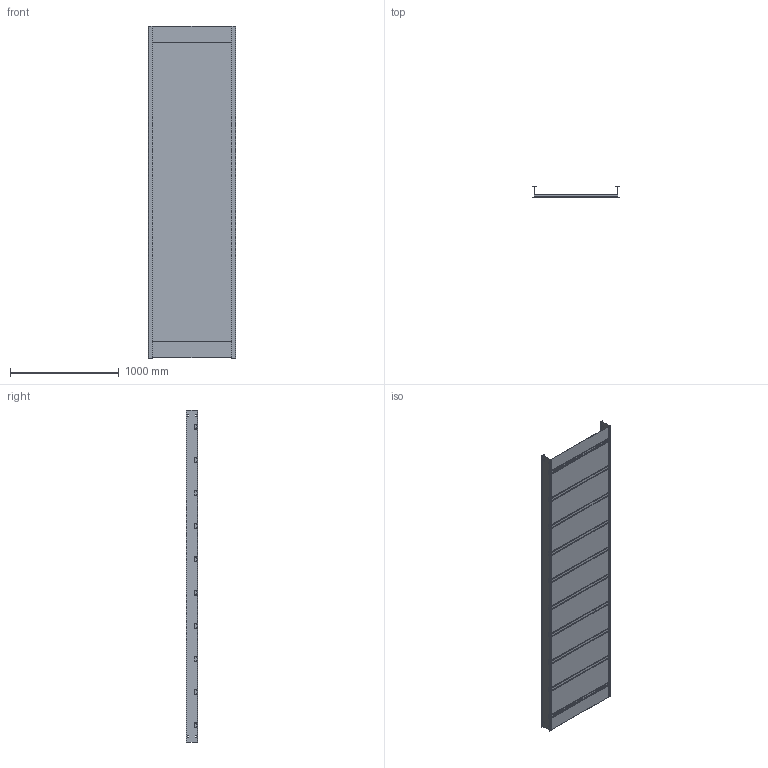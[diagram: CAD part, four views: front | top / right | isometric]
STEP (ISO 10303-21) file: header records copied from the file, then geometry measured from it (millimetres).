
FILE_DESCRIPTION((''),'2;1');
FILE_NAME('AH1430S120_ASM','2010-02-12T',('erouzier'),(''),'PRO/ENGINEER BY PARAMETRIC TECHNOLOGY CORPORATION, 2008510','PRO/ENGINEER BY PARAMETRIC TECHNOLOGY CORPORATION, 2008510','');
FILE_SCHEMA(('CONFIG_CONTROL_DESIGN'));
Length unit declared in the file: inch
Products named in the file (14): CDS001433-007_AF3; CDS001433-007_AF4; CDS002159L30_AF0; CDS002159L30_AF1; CDS002159L30_AF2; CDS002159L30_AF3; CDS002159L30_AF4; CDS002159L30_AF5; CDS002159L30_AF6; CDS002159L30_AF7; CDS002159L30_AF8; CDS002159L30_AF9; ED04587-022; AH1430S120_ASM
Assembly tree (13 placements, depth 2):
  AH1430S120_ASM
    CDS001433-007_AF3
    CDS001433-007_AF4
    CDS002159L30_AF0
    CDS002159L30_AF1
    CDS002159L30_AF2
    CDS002159L30_AF3
    CDS002159L30_AF4
    CDS002159L30_AF5
    CDS002159L30_AF6
    CDS002159L30_AF7
    CDS002159L30_AF8
    CDS002159L30_AF9
    ED04587-022
Bounding box: 799.08 x 104.57 x 3048 mm (x, y, z)
Volume: 5163304.4 mm3; surface area: 10556438.7 mm2
Topology: 13 solids, 14 shells, 379 faces, 1060 edges, 708 vertices
Faces by surface type: plane 265, cylinder 114
Entity records: 12525 total; most frequent: CARTESIAN_POINT 2174, ORIENTED_EDGE 2116, DIRECTION 2100, EDGE_CURVE 1060, VECTOR 832, LINE 832, VERTEX_POINT 708, AXIS2_PLACEMENT_3D 634
